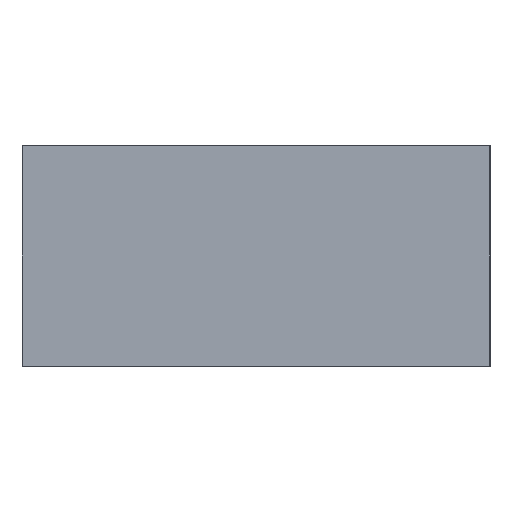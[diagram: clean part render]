
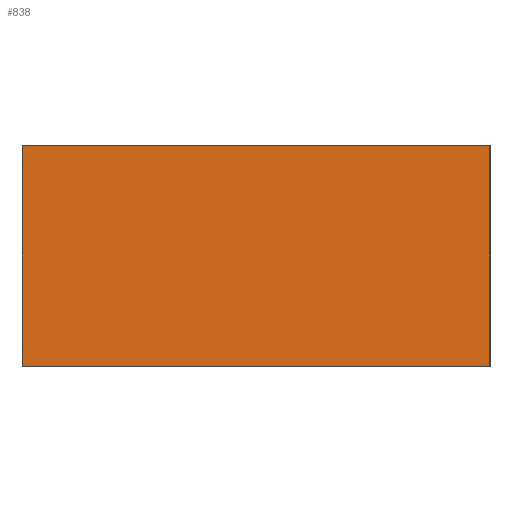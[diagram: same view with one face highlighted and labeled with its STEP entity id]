
A CAD part, left-side view. The second image highlights one B-rep face of the part: STEP entity #838.
In plain terms, the highlighted planar face has unit normal (-1, 0, 0).
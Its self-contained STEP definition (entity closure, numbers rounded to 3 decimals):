
#194=FACE_OUTER_BOUND('',#275,.T.);
#275=EDGE_LOOP('',(#644,#645,#646,#647));
#331=LINE('',#1376,#357);
#333=LINE('',#1381,#359);
#334=LINE('',#1382,#360);
#335=LINE('',#1383,#361);
#357=VECTOR('',#1133,34.);
#359=VECTOR('',#1137,34.);
#360=VECTOR('',#1138,16.);
#361=VECTOR('',#1139,16.);
#431=VERTEX_POINT('',#1373);
#432=VERTEX_POINT('',#1375);
#433=VERTEX_POINT('',#1379);
#434=VERTEX_POINT('',#1380);
#511=EDGE_CURVE('',#432,#431,#331,.T.);
#513=EDGE_CURVE('',#433,#434,#333,.T.);
#514=EDGE_CURVE('',#432,#434,#334,.T.);
#515=EDGE_CURVE('',#433,#431,#335,.T.);
#644=ORIENTED_EDGE('',*,*,#513,.T.);
#645=ORIENTED_EDGE('',*,*,#514,.F.);
#646=ORIENTED_EDGE('',*,*,#511,.T.);
#647=ORIENTED_EDGE('',*,*,#515,.F.);
#746=PLANE('',#939);
#838=ADVANCED_FACE('',(#194),#746,.T.);
#939=AXIS2_PLACEMENT_3D('',#1378,#1135,#1136);
#1133=DIRECTION('',(0.,-1.,0.));
#1135=DIRECTION('center_axis',(-1.,0.,0.));
#1136=DIRECTION('ref_axis',(0.,0.,1.));
#1137=DIRECTION('',(0.,1.,0.));
#1138=DIRECTION('',(0.,0.,1.));
#1139=DIRECTION('',(0.,0.,-1.));
#1373=CARTESIAN_POINT('',(-10.5,-17.,-8.));
#1375=CARTESIAN_POINT('',(-10.5,17.,-8.));
#1376=CARTESIAN_POINT('',(-10.5,17.,-8.));
#1378=CARTESIAN_POINT('Origin',(-10.5,-17.,0.));
#1379=CARTESIAN_POINT('',(-10.5,-17.,8.));
#1380=CARTESIAN_POINT('',(-10.5,17.,8.));
#1381=CARTESIAN_POINT('',(-10.5,17.,8.));
#1382=CARTESIAN_POINT('',(-10.5,17.,0.));
#1383=CARTESIAN_POINT('',(-10.5,-17.,0.));
